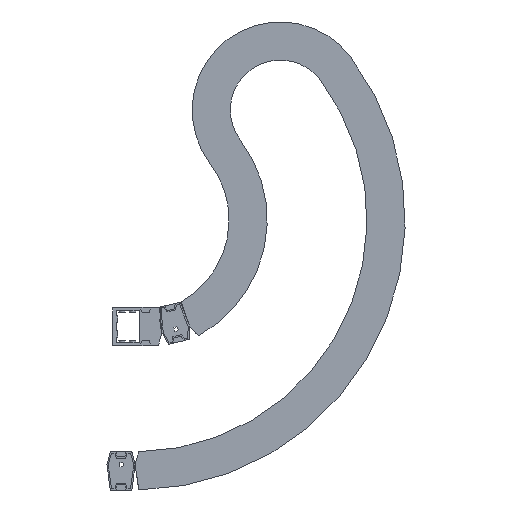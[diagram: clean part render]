
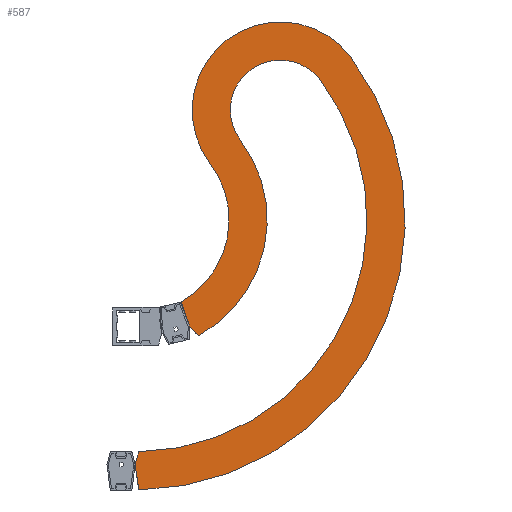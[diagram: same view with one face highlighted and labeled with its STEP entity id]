
A CAD part, front view. The second image highlights one B-rep face of the part: STEP entity #587.
In plain terms, the highlighted planar face has unit normal (0, -1, 0).
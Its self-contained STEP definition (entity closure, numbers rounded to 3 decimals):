
#587 = ADVANCED_FACE( '', ( #1409 ), #1410, .F. );
#1409 = FACE_OUTER_BOUND( '', #2515, .T. );
#1410 = PLANE( '', #2516 );
#2515 = EDGE_LOOP( '', ( #4083, #4084, #4085, #4086, #4087, #4088, #4089, #4090, #4091, #4092 ) );
#2516 = AXIS2_PLACEMENT_3D( '', #4093, #4094, #4095 );
#4083 = ORIENTED_EDGE( '', *, *, #7228, .F. );
#4084 = ORIENTED_EDGE( '', *, *, #7229, .F. );
#4085 = ORIENTED_EDGE( '', *, *, #7230, .F. );
#4086 = ORIENTED_EDGE( '', *, *, #7100, .T. );
#4087 = ORIENTED_EDGE( '', *, *, #6839, .F. );
#4088 = ORIENTED_EDGE( '', *, *, #6969, .F. );
#4089 = ORIENTED_EDGE( '', *, *, #7231, .F. );
#4090 = ORIENTED_EDGE( '', *, *, #7232, .T. );
#4091 = ORIENTED_EDGE( '', *, *, #7233, .T. );
#4092 = ORIENTED_EDGE( '', *, *, #7234, .F. );
#4093 = CARTESIAN_POINT( '', ( 0., -64., 0. ) );
#4094 = DIRECTION( '', ( 0., 1., 0. ) );
#4095 = DIRECTION( '', ( 0., 0., 1. ) );
#6839 = EDGE_CURVE( '', #8233, #8235, #8236, .T. );
#6969 = EDGE_CURVE( '', #8473, #8233, #8475, .T. );
#7100 = EDGE_CURVE( '', #8696, #8235, #8697, .T. );
#7228 = EDGE_CURVE( '', #8914, #8915, #8916, .T. );
#7229 = EDGE_CURVE( '', #8917, #8914, #8918, .T. );
#7230 = EDGE_CURVE( '', #8696, #8917, #8919, .T. );
#7231 = EDGE_CURVE( '', #8920, #8473, #8921, .T. );
#7232 = EDGE_CURVE( '', #8920, #8922, #8923, .T. );
#7233 = EDGE_CURVE( '', #8922, #8924, #8925, .T. );
#7234 = EDGE_CURVE( '', #8915, #8924, #8926, .T. );
#8233 = VERTEX_POINT( '', #10285 );
#8235 = VERTEX_POINT( '', #10288 );
#8236 = LINE( '', #10289, #10290 );
#8473 = VERTEX_POINT( '', #10630 );
#8475 = LINE( '', #10633, #10634 );
#8696 = VERTEX_POINT( '', #10942 );
#8697 = CIRCLE( '', #10943, 160. );
#8914 = VERTEX_POINT( '', #11248 );
#8915 = VERTEX_POINT( '', #11249 );
#8916 = LINE( '', #11250, #11251 );
#8917 = VERTEX_POINT( '', #11252 );
#8918 = CIRCLE( '', #11253, 460. );
#8919 = CIRCLE( '', #11254, 150. );
#8920 = VERTEX_POINT( '', #11255 );
#8921 = CIRCLE( '', #11256, 225. );
#8922 = VERTEX_POINT( '', #11257 );
#8923 = CIRCLE( '', #11258, 85. );
#8924 = VERTEX_POINT( '', #11259 );
#8925 = CIRCLE( '', #11260, 395. );
#8926 = LINE( '', #11261, #11262 );
#10285 = CARTESIAN_POINT( '', ( 92.462, -64., -180.72 ) );
#10288 = CARTESIAN_POINT( '', ( 78.444, -64., -139.451 ) );
#10289 = CARTESIAN_POINT( '', ( 92.462, -64., -180.72 ) );
#10290 = VECTOR( '', #13060, 1000. );
#10630 = CARTESIAN_POINT( '', ( 107.844, -64., -197.471 ) );
#10633 = CARTESIAN_POINT( '', ( 107.844, -64., -197.471 ) );
#10634 = VECTOR( '', #13192, 1000. );
#10942 = CARTESIAN_POINT( '', ( 127.544, -64., 96.604 ) );
#10943 = AXIS2_PLACEMENT_3D( '', #13325, #13326, #13327 );
#11248 = CARTESIAN_POINT( '', ( 6.293, -64., -459.957 ) );
#11249 = CARTESIAN_POINT( '', ( 0., -64., -417. ) );
#11250 = CARTESIAN_POINT( '', ( 6.293, -64., -459.957 ) );
#11251 = VECTOR( '', #13476, 1000. );
#11252 = CARTESIAN_POINT( '', ( 366.69, -64., 277.738 ) );
#11253 = AXIS2_PLACEMENT_3D( '', #13477, #13478, #13479 );
#11254 = AXIS2_PLACEMENT_3D( '', #13480, #13481, #13482 );
#11255 = CARTESIAN_POINT( '', ( 179.359, -64., 135.85 ) );
#11256 = AXIS2_PLACEMENT_3D( '', #13483, #13484, #13485 );
#11257 = CARTESIAN_POINT( '', ( 314.875, -64., 238.492 ) );
#11258 = AXIS2_PLACEMENT_3D( '', #13486, #13487, #13488 );
#11259 = CARTESIAN_POINT( '', ( 6.1, -64., -394.953 ) );
#11260 = AXIS2_PLACEMENT_3D( '', #13489, #13490, #13491 );
#11261 = CARTESIAN_POINT( '', ( 0., -64., -417. ) );
#11262 = VECTOR( '', #13492, 1000. );
#13060 = DIRECTION( '', ( -0.322, 0., 0.947 ) );
#13192 = DIRECTION( '', ( -0.676, 0., 0.737 ) );
#13325 = CARTESIAN_POINT( '', ( 0., -64., 0. ) );
#13326 = DIRECTION( '', ( 0., 1., 0. ) );
#13327 = DIRECTION( '', ( 1., 0., 0. ) );
#13476 = DIRECTION( '', ( -0.145, 0., 0.989 ) );
#13477 = CARTESIAN_POINT( '', ( 0., -64., 0. ) );
#13478 = DIRECTION( '', ( 0., 1., 0. ) );
#13479 = DIRECTION( '', ( 1., 0., 0. ) );
#13480 = CARTESIAN_POINT( '', ( 247.117, -64., 187.171 ) );
#13481 = DIRECTION( '', ( 0., 1., 0. ) );
#13482 = DIRECTION( '', ( 1., 0., 0. ) );
#13483 = CARTESIAN_POINT( '', ( 0., -64., 0. ) );
#13484 = DIRECTION( '', ( 0., 1., 0. ) );
#13485 = DIRECTION( '', ( 1., 0., 0. ) );
#13486 = CARTESIAN_POINT( '', ( 247.117, -64., 187.171 ) );
#13487 = DIRECTION( '', ( 0., 1., 0. ) );
#13488 = DIRECTION( '', ( 1., 0., 0. ) );
#13489 = CARTESIAN_POINT( '', ( 0., -64., 0. ) );
#13490 = DIRECTION( '', ( 0., 1., 0. ) );
#13491 = DIRECTION( '', ( 1., 0., 0. ) );
#13492 = DIRECTION( '', ( 0.267, 0., 0.964 ) );
